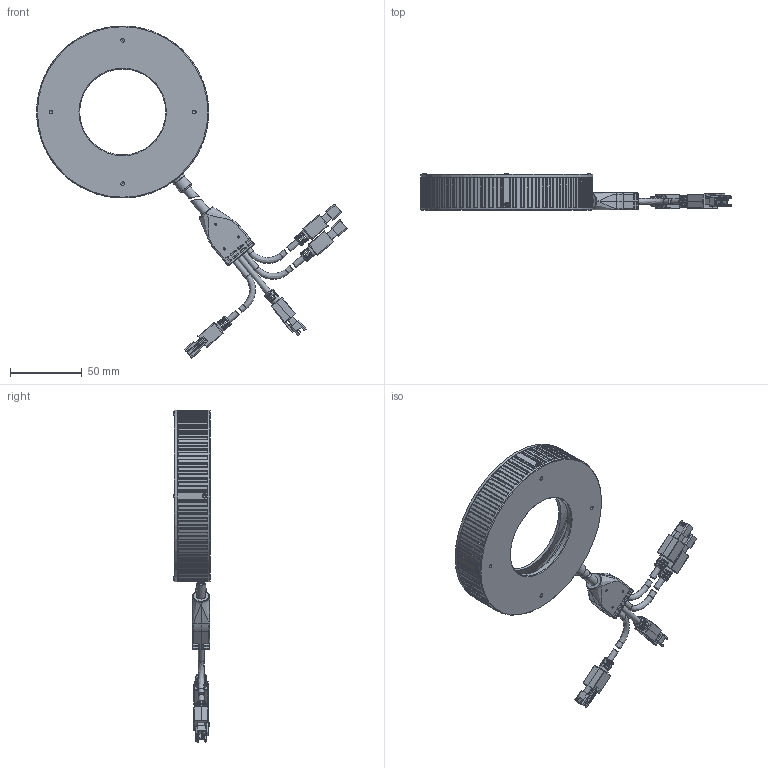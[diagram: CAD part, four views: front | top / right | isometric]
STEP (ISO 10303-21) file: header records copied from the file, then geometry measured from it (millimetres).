
FILE_DESCRIPTION (( 'STEP AP203' ), '1' );
FILE_NAME ('OPT-MSRI12030-X-V1.0U尨砩芞.STEP', '2025-02-15T03:43:58', ( '' ), ( '' ), 'SwSTEP 2.0', 'SolidWorks 2016', '' );
FILE_SCHEMA (( 'CONFIG_CONTROL_DESIGN' ));
Products named in the file (1): OPT-MSRI12030-X-V1.0U尨砩芞
Bounding box: 216.77 x 25.5 x 231.68 mm (x, y, z)
Surface area: 74145.6 mm2 (no closed solid volume)
Topology: 0 solids, 30 shells, 1620 faces, 4579 edges, 2967 vertices
Faces by surface type: plane 813, cylinder 600, cone 133, bspline 58, torus 16
Full cylindrical faces by diameter (mm): 1.1 x4, 1.4 x8, 1.5 x3, 1.6 x4, 1.8 x4, 2 x4, 2.2 x4, 2.5 x4, 2.6 x4, 4.1 x10, 5 x1, 6.4 x2, 7.5 x4, 8.6 x1, 9.3 x1, 9.8 x1, 60 x2, 61.8 x1, 112 x1, 116 x1, 120 x2
Entity records: 59755 total; most frequent: CARTESIAN_POINT 20514, ORIENTED_EDGE 8423, DIRECTION 7350, EDGE_CURVE 4395, VERTEX_POINT 2916, AXIS2_PLACEMENT_3D 2498, VECTOR 2354, LINE 2354
